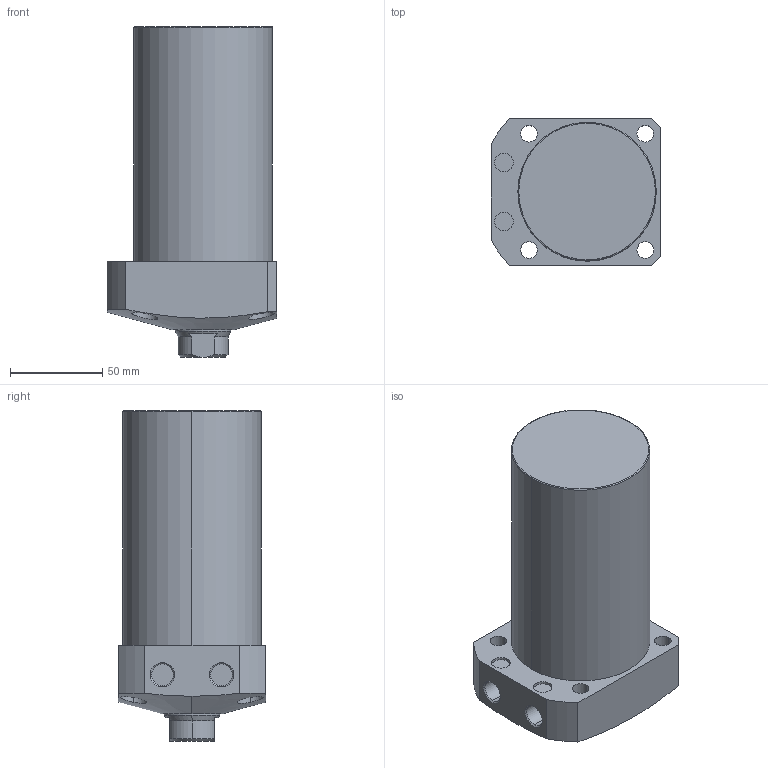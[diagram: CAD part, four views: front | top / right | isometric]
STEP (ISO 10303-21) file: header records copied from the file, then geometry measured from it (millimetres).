
FILE_DESCRIPTION (( 'STEP AP203' ), '1' );
FILE_NAME ('CLL-075CA-090.STEP', '2019-12-23T08:33:31', ( '' ), ( '' ), 'SwSTEP 2.0', 'SolidWorks 2015', '' );
FILE_SCHEMA (( 'CONFIG_CONTROL_DESIGN' ));
Length unit declared in the file: millimetre
Products named in the file (1): CLL-075CA-090
Bounding box: 92 x 80 x 179 mm (x, y, z)
Volume: 780126.8 mm3; surface area: 62258 mm2
Topology: 1 solids, 1 shells, 74 faces, 171 edges, 108 vertices
Faces by surface type: cylinder 35, plane 22, cone 15, torus 2
Entity records: 2610 total; most frequent: CARTESIAN_POINT 815, DIRECTION 376, ORIENTED_EDGE 338, EDGE_CURVE 169, AXIS2_PLACEMENT_3D 156, VERTEX_POINT 108, EDGE_LOOP 93, CIRCLE 81
